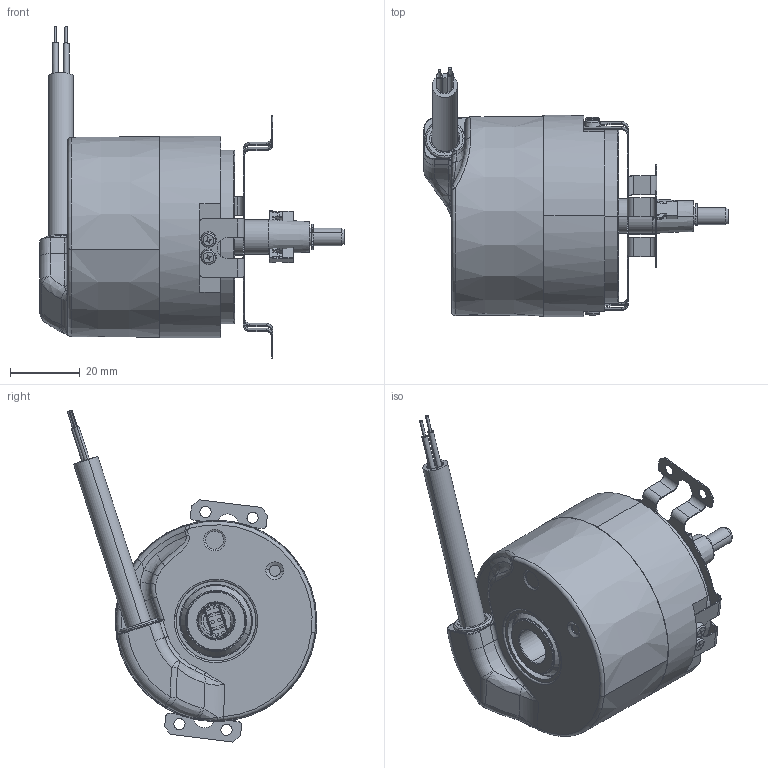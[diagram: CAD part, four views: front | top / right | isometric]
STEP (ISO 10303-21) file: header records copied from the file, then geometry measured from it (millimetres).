
FILE_DESCRIPTION (( 'STEP AP214' ), '1' );
FILE_NAME ('5834SIL.BKXE.XXXX.STEP', '2010-11-18T13:23:59', ( 'admin' ), ( 'Fritz Kübler GmbH' ), 'SwSTEP 2.0', 'SolidWorks 2009', '' );
FILE_SCHEMA (( 'AUTOMOTIVE_DESIGN' ));
Length unit declared in the file: millimetre
Products named in the file (1): 5834SIL.BKXE.XXXX
Bounding box: 87.5 x 71.81 x 95.55 mm (x, y, z)
Surface area: 26145.5 mm2 (no closed solid volume)
Topology: 0 solids, 19 shells, 478 faces, 1441 edges, 963 vertices
Faces by surface type: plane 235, cylinder 136, torus 40, cone 36, bspline 28, sphere 3
Entity records: 24465 total; most frequent: CARTESIAN_POINT 6267, DIRECTION 2753, ORIENTED_EDGE 2463, EDGE_CURVE 1438, VERTEX_POINT 963, AXIS2_PLACEMENT_3D 943, VECTOR 867, LINE 867
